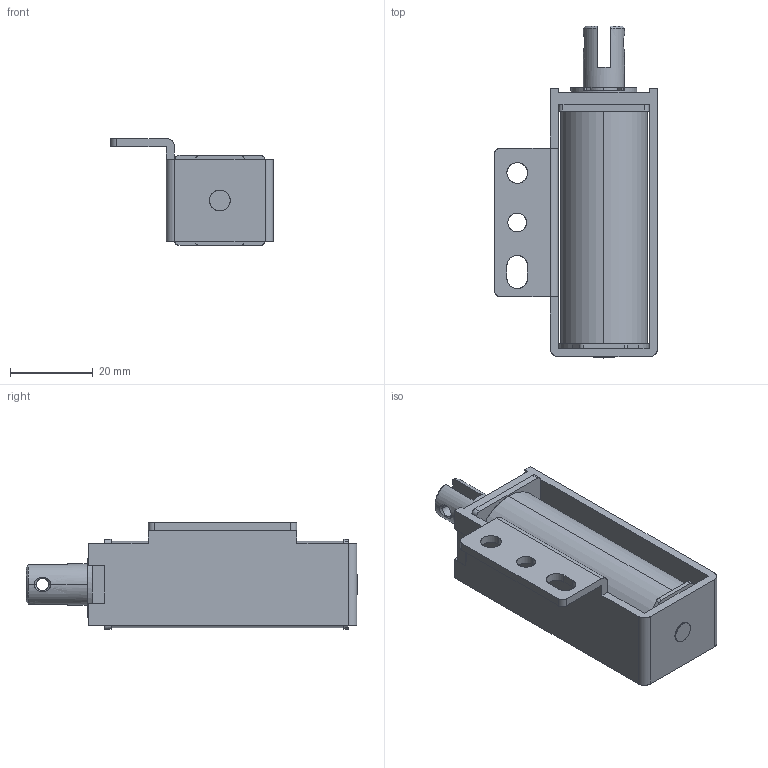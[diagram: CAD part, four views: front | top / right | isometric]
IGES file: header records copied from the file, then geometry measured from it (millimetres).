
Start section: SolidWorks IGES file using analytic representation for surfaces
Global section: file name: L:\カタログ\web用3Dデータ\CA1064\3D_CA1064\w_ca1064.IGS; native system: SolidWorks 2014; preprocessor: SolidWorks 2014; author: jiba; date: 140714.112350; units: millimetre
Bounding box: 39.5 x 80.4 x 25.9 mm (x, y, z)
Surface area: 17582.7 mm2 (no closed solid volume)
Topology: 0 solids, 0 shells, 157 faces, 2270 edges, 2270 vertices
Faces by surface type: bspline 80, revolution 77
